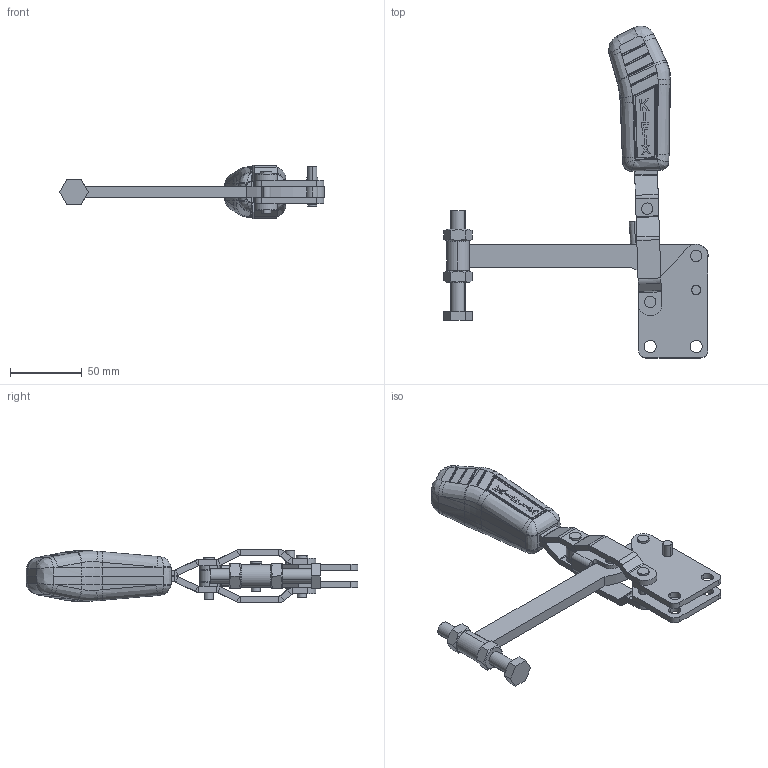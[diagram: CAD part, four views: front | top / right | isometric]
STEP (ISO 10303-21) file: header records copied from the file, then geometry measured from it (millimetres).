
FILE_DESCRIPTION (( 'STEP AP203' ), '1' );
FILE_NAME ('KF-011 RS.STEP', '2014-07-28T13:09:09', ( 'Ricardo' ), ( '' ), 'SwSTEP 2.0', 'SolidWorks 2013', '' );
FILE_SCHEMA (( 'CONFIG_CONTROL_DESIGN' ));
Length unit declared in the file: millimetre
Products named in the file (14): 05.20005; 02.11007; 03.15004; 01.10013; 20.20005; 04.10002; 11.50003; 07.60002; 12.50021; 04.20002; PSB-M10; 06.50007; KF-011 RS; 06.50008
Assembly tree (18 placements, depth 3):
  KF-011 RS
    01.10013  x2
    04.10002
    07.60002
    04.20002
    06.50007  x2
    06.50008  x2
    05.20005
    02.11007  x2
    03.15004
    PSB-M10
      20.20005
      11.50003  x2
      12.50021
Bounding box: 183.72 x 230.79 x 37 mm (x, y, z)
Volume: 173078.7 mm3; surface area: 68323.7 mm2
Topology: 17 solids, 17 shells, 725 faces, 1763 edges, 1083 vertices
Faces by surface type: plane 285, cylinder 188, bspline 157, sphere 52, cone 40, torus 3
Entity records: 23411 total; most frequent: CARTESIAN_POINT 8848, ORIENTED_EDGE 2942, DIRECTION 2316, EDGE_CURVE 1471, VERTEX_POINT 917, AXIS2_PLACEMENT_3D 878, EDGE_LOOP 666, ADVANCED_FACE 605
